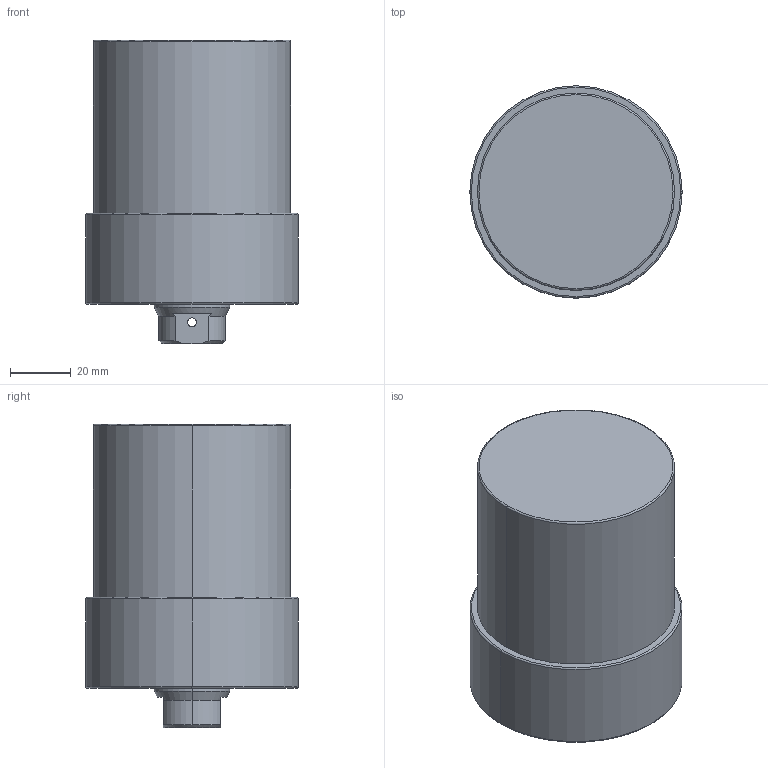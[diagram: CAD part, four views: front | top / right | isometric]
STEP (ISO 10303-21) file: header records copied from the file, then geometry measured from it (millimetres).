
FILE_DESCRIPTION (( 'STEP AP203' ), '1' );
FILE_NAME ('CLLU-065GB-040.STEP', '2020-01-06T08:43:30', ( '' ), ( '' ), 'SwSTEP 2.0', 'SolidWorks 2015', '' );
FILE_SCHEMA (( 'CONFIG_CONTROL_DESIGN' ));
Length unit declared in the file: millimetre
Products named in the file (1): CLLU-065GB-040
Bounding box: 70 x 70 x 100 mm (x, y, z)
Volume: 305071.3 mm3; surface area: 28860.1 mm2
Topology: 1 solids, 1 shells, 68 faces, 157 edges, 90 vertices
Faces by surface type: cylinder 27, cone 25, plane 10, torus 6
Entity records: 2051 total; most frequent: CARTESIAN_POINT 438, DIRECTION 352, ORIENTED_EDGE 294, AXIS2_PLACEMENT_3D 148, EDGE_CURVE 147, VERTEX_POINT 90, EDGE_LOOP 81, CIRCLE 79
